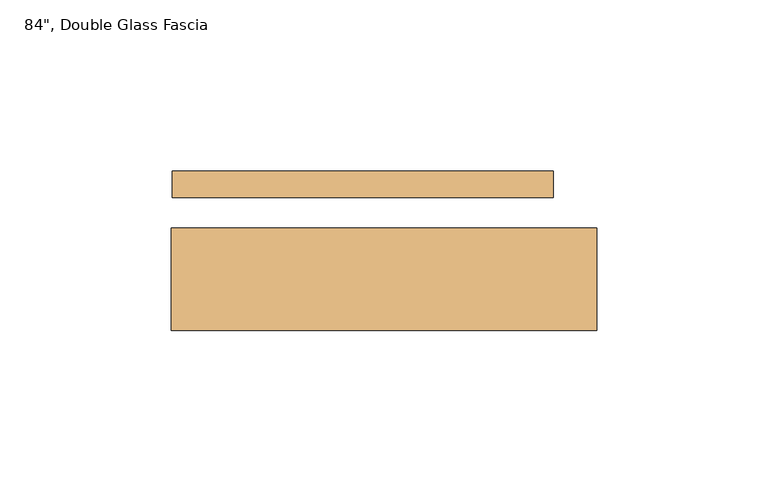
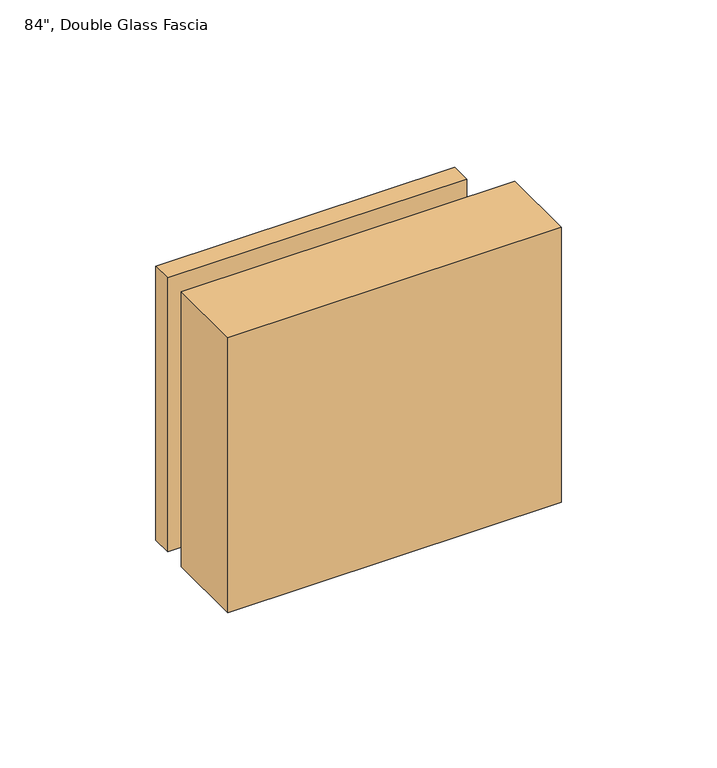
"""IFC4 building model written with IfcOpenShell, lengths in millimetres: door geometry."""

from ifc_helpers import new_model, si_unit, frame, origin, place, context, project, spatial, polyline, outline, extrude, source, transform, mapped, element, save


def door_facb3c76(model_context):
    return source(origin(), model_context, "Body", "SweptSolid", [
        extrude(outline(polyline([(473.5631562, -11.6378955), (473.5631562, -41.4828955), (349.5702539, -41.4828955), (349.5702539, -11.6378955), (473.5631562, -11.6378955)])), frame((0.0, 0.0, 952.4296945), z_axis=(0.0, 0.0, 1.0), x_axis=(1.0, 0.0, 0.0)), (0.0, 0.0, 1.0), 108.090611),
        extrude(outline(polyline([(349.8056594, -2.6208955), (349.8056594, 4.9991045), (460.8631562, 4.9991045), (460.8631562, -2.6208955), (349.8056594, -2.6208955)])), frame((0.0, 0.0, 952.6651), z_axis=(0.0, 0.0, 1.0), x_axis=(1.0, 0.0, 0.0)), (0.0, 0.0, 1.0), 107.6198),
    ])


if __name__ == "__main__":
    model = new_model("IFC4")
    model_context = context("Model", 3, world=origin())
    ifc_project = project(units=[si_unit("LENGTHUNIT", "METRE", prefix="MILLI")], contexts=[model_context])
    site = spatial("IfcSite", under=ifc_project)
    building = spatial("IfcBuilding", under=site)
    placement = place(None, origin())
    door_shape = door_facb3c76(model_context)
    element("IfcDoor", 1, ObjectType="Door-Hinged_Glass_Segmented_Height-Teknion-Altos-Left_Swing : 84\", Double Glass Fascia", at=placement, inside=building, context=model_context, shape_type="MappedRepresentation", body=[
        mapped(door_shape, transform((0.0, 0.0, 0.0), x_axis=(1.0, 0.0, 0.0), y_axis=(0.0, 1.0, 0.0), z_axis=(0.0, 0.0, 1.0))),
    ])
    save(model, "model.ifc")
